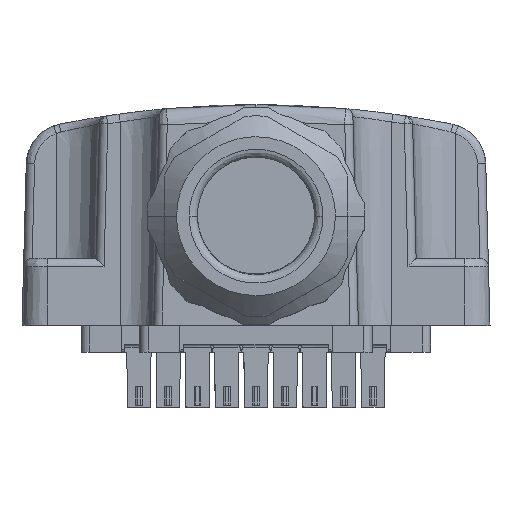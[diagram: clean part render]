
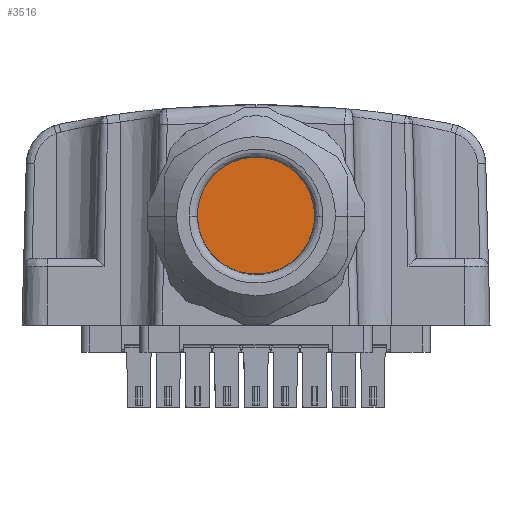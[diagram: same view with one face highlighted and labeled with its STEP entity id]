
A CAD part, top view. The second image highlights one B-rep face of the part: STEP entity #3516.
In plain terms, the highlighted planar face has unit normal (0, 0, 1).
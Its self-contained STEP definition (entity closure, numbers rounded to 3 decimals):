
#1320 = EDGE_CURVE ( 'NONE', #8433, #30729, #22893, .T. ) ;
#2278 = AXIS2_PLACEMENT_3D ( 'NONE', #23530, #20257, #26280 ) ;
#2746 = ORIENTED_EDGE ( 'NONE', *, *, #37000, .F. ) ;
#3414 = CARTESIAN_POINT ( 'NONE',  ( 3.937, 26.412, 214.074 ) ) ;
#3516 = ADVANCED_FACE ( 'NONE', ( #30647 ), #8014, .F. ) ;
#5645 = DIRECTION ( 'NONE',  ( 0., 0., -1. ) ) ;
#8014 = PLANE ( 'NONE',  #34907 ) ;
#8433 = VERTEX_POINT ( 'NONE', #3414 ) ;
#9206 = AXIS2_PLACEMENT_3D ( 'NONE', #32461, #15297, #23859 ) ;
#9349 = ORIENTED_EDGE ( 'NONE', *, *, #1320, .F. ) ;
#15297 = DIRECTION ( 'NONE',  ( 0., 0., -1. ) ) ;
#20257 = DIRECTION ( 'NONE',  ( 0., 0., -1. ) ) ;
#22893 = CIRCLE ( 'NONE', #9206, 7. ) ;
#23530 = CARTESIAN_POINT ( 'NONE',  ( 0., 32.2, 214.074 ) ) ;
#23859 = DIRECTION ( 'NONE',  ( -0.562, 0.827, 0. ) ) ;
#26280 = DIRECTION ( 'NONE',  ( -0.562, 0.827, 0. ) ) ;
#29304 = CARTESIAN_POINT ( 'NONE',  ( -3.937, 37.988, 214.074 ) ) ;
#30647 = FACE_OUTER_BOUND ( 'NONE', #34875, .T. ) ;
#30729 = VERTEX_POINT ( 'NONE', #29304 ) ;
#32461 = CARTESIAN_POINT ( 'NONE',  ( 0., 32.2, 214.074 ) ) ;
#33116 = CIRCLE ( 'NONE', #2278, 7. ) ;
#33945 = DIRECTION ( 'NONE',  ( -0.562, 0.827, 0. ) ) ;
#34875 = EDGE_LOOP ( 'NONE', ( #9349, #2746 ) ) ;
#34907 = AXIS2_PLACEMENT_3D ( 'NONE', #36914, #5645, #33945 ) ;
#36914 = CARTESIAN_POINT ( 'NONE',  ( 0., 32.2, 214.074 ) ) ;
#37000 = EDGE_CURVE ( 'NONE', #30729, #8433, #33116, .T. ) ;
